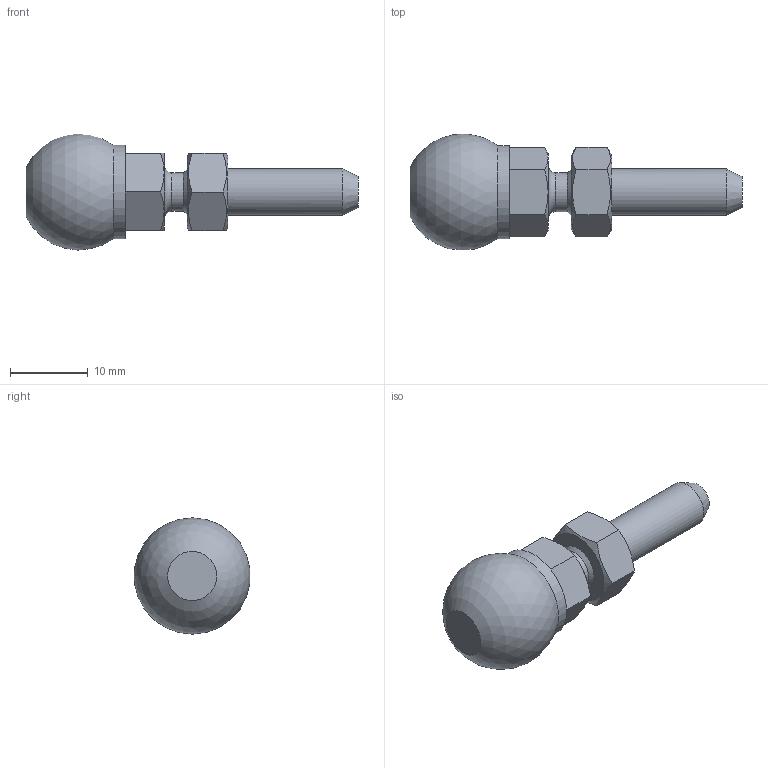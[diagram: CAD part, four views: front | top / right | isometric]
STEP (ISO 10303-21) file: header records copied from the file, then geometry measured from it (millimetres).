
FILE_DESCRIPTION(('STEP AP203'), '1');
FILE_NAME('A00020.106025', '', ('UNSPECIFIED'), ('UNSPECIFIED'), 'C3D Converter', 'C3D Toolkit', '');
FILE_SCHEMA(('CONFIG_CONTROL_DESIGN'));
Length unit declared in the file: millimetre
Products named in the file (2): A00020.106030
Assembly tree (1 placements, depth 2):
  A00020.106030
    (unnamed)
Bounding box: 42.8 x 14.94 x 15 mm (x, y, z)
Volume: 3184.8 mm3; surface area: 1723.9 mm2
Topology: 2 solids, 2 shells, 36 faces, 81 edges, 51 vertices
Faces by surface type: plane 18, cone 12, cylinder 4, sphere 1, torus 1
Full cylindrical faces by diameter (mm): 4.917 x1, 5 x1, 6 x1, 12 x1
Entity records: 2028 total; most frequent: CARTESIAN_POINT 1013, DIRECTION 148, ORIENTED_EDGE 138, EDGE_CURVE 69, AXIS2_PLACEMENT_3D 65, EDGE_LOOP 52, VERTEX_POINT 51, FACE_BOUND 37
